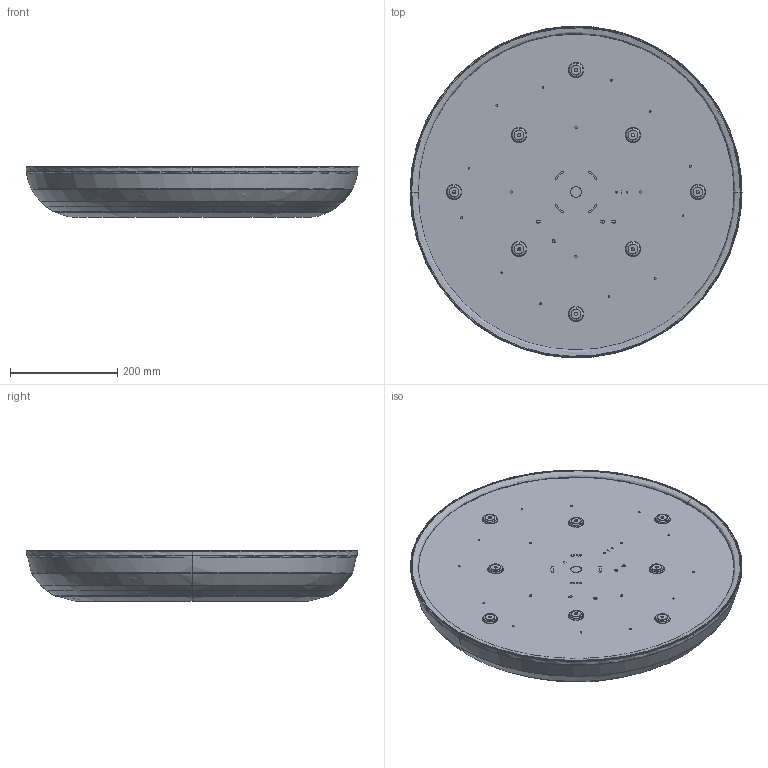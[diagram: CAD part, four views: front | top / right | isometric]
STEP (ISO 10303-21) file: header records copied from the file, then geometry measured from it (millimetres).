
FILE_DESCRIPTION(/* description */ (''),/* implementation_level */ '2;1');
FILE_NAME(/* name */ 'Superbold P088__.060',/* time_stamp */ '2025-05-26T17:19:08+02:00',/* author */ (''),/* organization */ (''),/* preprocessor_version */ 'ST-DEVELOPER v16.5',/* originating_system */ '',/* authorisation */ '');
FILE_SCHEMA (('AUTOMOTIVE_DESIGN'));
Length unit declared in the file: millimetre
Products named in the file (7): Document; 3200.0916000.00 (fascia esterna ALL Ø 618mm H 85mm sp 1 con viti)
_3210.0916060.00; headless studs for stud welding gb_GB_CONNECTING_PIECE_RIVET_HSSW 4X8; P24UT.0080 (fascia esterna ALL Ø 618mm H 85mm sp 1)_P24UT.0080; P24UT.0081 (diffusore circolare PMMA Ø 530mm H 59mm sp4)_P24UT.00
81; 3300.0539000.00 (piastra di fissaggio a muro circolare ALL Ø 600,
5mmsp 1,2)_3309.0539000.00 - in opera 2; 3100.0123000.00 (profilo adesivo EPDM Kronstik 14X12mm)_3101.0123006.
00
Assembly tree (9 placements, depth 3):
  Document
    3200.0916000.00 (fascia esterna ALL Ø 618mm H 85mm sp 1 con viti)
_3210.0916060.00
      headless studs for stud welding gb_GB_CONNECTING_PIECE_RIVET_HSSW 4X8  x4
      P24UT.0080 (fascia esterna ALL Ø 618mm H 85mm sp 1)_P24UT.0080
    P24UT.0081 (diffusore circolare PMMA Ø 530mm H 59mm sp4)_P24UT.00
81
    3300.0539000.00 (piastra di fissaggio a muro circolare ALL Ø 600,
5mmsp 1,2)_3309.0539000.00 - in opera 2
    3100.0123000.00 (profilo adesivo EPDM Kronstik 14X12mm)_3101.0123006.
00
Bounding box: 618 x 617.43 x 93.82 mm (x, y, z)
Volume: 1551095 mm3; surface area: 1659597.6 mm2
Topology: 8 solids, 12 shells, 490 faces, 1263 edges, 812 vertices
Faces by surface type: bspline 348, plane 142
Entity records: 23048 total; most frequent: CARTESIAN_POINT 15969, ORIENTED_EDGE 2370, EDGE_CURVE 1191, VERTEX_POINT 770, EDGE_LOOP 557, B_SPLINE_CURVE_WITH_KNOTS 541, ADVANCED_FACE 451, FACE_OUTER_BOUND 451
